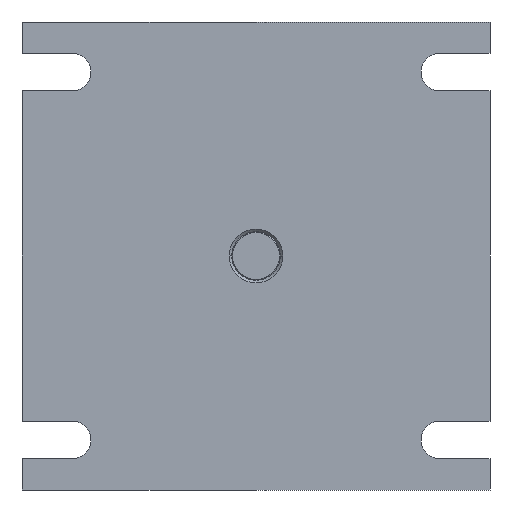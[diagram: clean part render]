
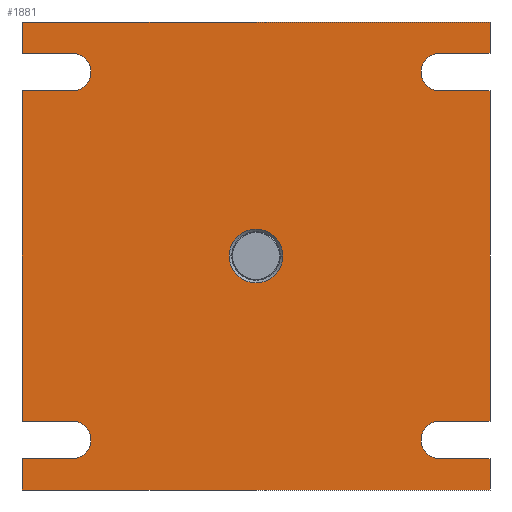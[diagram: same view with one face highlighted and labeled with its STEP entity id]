
A CAD part, front view. The second image highlights one B-rep face of the part: STEP entity #1881.
In plain terms, the highlighted planar face has unit normal (0, -1, 0).
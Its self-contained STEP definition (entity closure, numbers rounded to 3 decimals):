
#100=DIRECTION('',(-1.,0.,0.));
#101=VECTOR('',#100,15.);
#102=CARTESIAN_POINT('',(70.,0.,60.6));
#103=LINE('',#102,#101);
#104=DIRECTION('',(-1.,0.,0.));
#105=VECTOR('',#104,15.);
#106=CARTESIAN_POINT('',(70.,0.,49.4));
#107=LINE('',#106,#105);
#108=DIRECTION('',(0.,0.,-1.));
#109=VECTOR('',#108,98.8);
#110=CARTESIAN_POINT('',(70.,0.,49.4));
#111=LINE('',#110,#109);
#112=DIRECTION('',(-1.,0.,0.));
#113=VECTOR('',#112,15.);
#114=CARTESIAN_POINT('',(70.,0.,-49.4));
#115=LINE('',#114,#113);
#116=DIRECTION('',(-1.,0.,0.));
#117=VECTOR('',#116,15.);
#118=CARTESIAN_POINT('',(70.,0.,-60.6));
#119=LINE('',#118,#117);
#120=DIRECTION('',(0.,0.,-1.));
#121=VECTOR('',#120,9.4);
#122=CARTESIAN_POINT('',(70.,0.,-60.6));
#123=LINE('',#122,#121);
#124=DIRECTION('',(-1.,0.,0.));
#125=VECTOR('',#124,140.);
#126=CARTESIAN_POINT('',(70.,0.,-70.));
#127=LINE('',#126,#125);
#128=DIRECTION('',(0.,0.,1.));
#129=VECTOR('',#128,9.4);
#130=CARTESIAN_POINT('',(-70.,0.,-70.));
#131=LINE('',#130,#129);
#132=DIRECTION('',(1.,0.,0.));
#133=VECTOR('',#132,15.);
#134=CARTESIAN_POINT('',(-70.,0.,-60.6));
#135=LINE('',#134,#133);
#136=DIRECTION('',(1.,0.,0.));
#137=VECTOR('',#136,15.);
#138=CARTESIAN_POINT('',(-70.,0.,-49.4));
#139=LINE('',#138,#137);
#140=DIRECTION('',(0.,0.,1.));
#141=VECTOR('',#140,98.8);
#142=CARTESIAN_POINT('',(-70.,0.,-49.4));
#143=LINE('',#142,#141);
#144=DIRECTION('',(1.,0.,0.));
#145=VECTOR('',#144,15.);
#146=CARTESIAN_POINT('',(-70.,0.,49.4));
#147=LINE('',#146,#145);
#148=DIRECTION('',(1.,0.,0.));
#149=VECTOR('',#148,15.);
#150=CARTESIAN_POINT('',(-70.,0.,60.6));
#151=LINE('',#150,#149);
#152=DIRECTION('',(0.,0.,1.));
#153=VECTOR('',#152,9.4);
#154=CARTESIAN_POINT('',(-70.,0.,60.6));
#155=LINE('',#154,#153);
#156=DIRECTION('',(1.,0.,0.));
#157=VECTOR('',#156,140.);
#158=CARTESIAN_POINT('',(-70.,0.,70.));
#159=LINE('',#158,#157);
#160=DIRECTION('',(0.,0.,-1.));
#161=VECTOR('',#160,9.4);
#162=CARTESIAN_POINT('',(70.,0.,70.));
#163=LINE('',#162,#161);
#164=CARTESIAN_POINT('',(0.,0.,0.));
#165=DIRECTION('',(0.,1.,0.));
#166=DIRECTION('',(1.,0.,0.));
#167=AXIS2_PLACEMENT_3D('',#164,#165,#166);
#169=CARTESIAN_POINT('',(0.,0.,0.));
#170=DIRECTION('',(0.,1.,0.));
#171=DIRECTION('',(-1.,0.,0.));
#172=AXIS2_PLACEMENT_3D('',#169,#170,#171);
#183=CARTESIAN_POINT('',(55.,0.,55.));
#184=DIRECTION('',(0.,1.,0.));
#185=DIRECTION('',(0.,0.,-1.));
#186=AXIS2_PLACEMENT_3D('',#183,#184,#185);
#209=CARTESIAN_POINT('',(55.,0.,-55.));
#210=DIRECTION('',(0.,1.,0.));
#211=DIRECTION('',(0.,0.,-1.));
#212=AXIS2_PLACEMENT_3D('',#209,#210,#211);
#234=CARTESIAN_POINT('',(-55.,0.,-55.));
#235=DIRECTION('',(0.,1.,0.));
#236=DIRECTION('',(0.,0.,1.));
#237=AXIS2_PLACEMENT_3D('',#234,#235,#236);
#260=CARTESIAN_POINT('',(-55.,0.,55.));
#261=DIRECTION('',(0.,1.,0.));
#262=DIRECTION('',(0.,0.,1.));
#263=AXIS2_PLACEMENT_3D('',#260,#261,#262);
#1386=CARTESIAN_POINT('',(-70.,0.,70.));
#1387=CARTESIAN_POINT('',(70.,0.,70.));
#1388=VERTEX_POINT('',#1386);
#1389=VERTEX_POINT('',#1387);
#1390=CARTESIAN_POINT('',(70.,0.,-70.));
#1391=CARTESIAN_POINT('',(-70.,0.,-70.));
#1392=VERTEX_POINT('',#1390);
#1393=VERTEX_POINT('',#1391);
#1402=CARTESIAN_POINT('',(70.,0.,60.6));
#1403=CARTESIAN_POINT('',(55.,0.,60.6));
#1404=VERTEX_POINT('',#1402);
#1405=VERTEX_POINT('',#1403);
#1406=CARTESIAN_POINT('',(70.,0.,49.4));
#1407=CARTESIAN_POINT('',(55.,0.,49.4));
#1408=VERTEX_POINT('',#1406);
#1409=VERTEX_POINT('',#1407);
#1410=CARTESIAN_POINT('',(-70.,0.,49.4));
#1411=CARTESIAN_POINT('',(-55.,0.,49.4));
#1412=VERTEX_POINT('',#1410);
#1413=VERTEX_POINT('',#1411);
#1414=CARTESIAN_POINT('',(-70.,0.,60.6));
#1415=CARTESIAN_POINT('',(-55.,0.,60.6));
#1416=VERTEX_POINT('',#1414);
#1417=VERTEX_POINT('',#1415);
#1418=CARTESIAN_POINT('',(-70.,0.,-60.6));
#1419=CARTESIAN_POINT('',(-55.,0.,-60.6));
#1420=VERTEX_POINT('',#1418);
#1421=VERTEX_POINT('',#1419);
#1422=CARTESIAN_POINT('',(-70.,0.,-49.4));
#1423=CARTESIAN_POINT('',(-55.,0.,-49.4));
#1424=VERTEX_POINT('',#1422);
#1425=VERTEX_POINT('',#1423);
#1426=CARTESIAN_POINT('',(70.,0.,-49.4));
#1427=CARTESIAN_POINT('',(55.,0.,-49.4));
#1428=VERTEX_POINT('',#1426);
#1429=VERTEX_POINT('',#1427);
#1430=CARTESIAN_POINT('',(70.,0.,-60.6));
#1431=CARTESIAN_POINT('',(55.,0.,-60.6));
#1432=VERTEX_POINT('',#1430);
#1433=VERTEX_POINT('',#1431);
#1466=CARTESIAN_POINT('',(8.,0.,0.));
#1467=CARTESIAN_POINT('',(-8.,0.,0.));
#1468=VERTEX_POINT('',#1466);
#1469=VERTEX_POINT('',#1467);
#1829=CARTESIAN_POINT('',(0.,0.,0.));
#1830=DIRECTION('',(0.,1.,0.));
#1831=DIRECTION('',(1.,0.,0.));
#1832=AXIS2_PLACEMENT_3D('',#1829,#1830,#1831);
#1833=PLANE('',#1832);
#1834=ORIENTED_EDGE('',*,*,#1819,.T.);
#1836=ORIENTED_EDGE('',*,*,#1835,.F.);
#1838=ORIENTED_EDGE('',*,*,#1837,.F.);
#1840=ORIENTED_EDGE('',*,*,#1839,.T.);
#1842=ORIENTED_EDGE('',*,*,#1841,.T.);
#1844=ORIENTED_EDGE('',*,*,#1843,.F.);
#1846=ORIENTED_EDGE('',*,*,#1845,.F.);
#1848=ORIENTED_EDGE('',*,*,#1847,.T.);
#1850=ORIENTED_EDGE('',*,*,#1849,.T.);
#1852=ORIENTED_EDGE('',*,*,#1851,.T.);
#1854=ORIENTED_EDGE('',*,*,#1853,.T.);
#1856=ORIENTED_EDGE('',*,*,#1855,.F.);
#1858=ORIENTED_EDGE('',*,*,#1857,.F.);
#1860=ORIENTED_EDGE('',*,*,#1859,.T.);
#1862=ORIENTED_EDGE('',*,*,#1861,.T.);
#1864=ORIENTED_EDGE('',*,*,#1863,.F.);
#1866=ORIENTED_EDGE('',*,*,#1865,.F.);
#1868=ORIENTED_EDGE('',*,*,#1867,.T.);
#1870=ORIENTED_EDGE('',*,*,#1869,.T.);
#1872=ORIENTED_EDGE('',*,*,#1871,.T.);
#1873=EDGE_LOOP('',(#1834,#1836,#1838,#1840,#1842,#1844,#1846,#1848,#1850,#1852,
#1854,#1856,#1858,#1860,#1862,#1864,#1866,#1868,#1870,#1872));
#1874=FACE_OUTER_BOUND('',#1873,.F.);
#1876=ORIENTED_EDGE('',*,*,#1875,.F.);
#1878=ORIENTED_EDGE('',*,*,#1877,.F.);
#1879=EDGE_LOOP('',(#1876,#1878));
#1880=FACE_BOUND('',#1879,.F.);
#1881=ADVANCED_FACE('',(#1874,#1880),#1833,.F.);
#168=CIRCLE('',#167,8.);
#173=CIRCLE('',#172,8.);
#187=CIRCLE('',#186,5.6);
#213=CIRCLE('',#212,5.6);
#238=CIRCLE('',#237,5.6);
#264=CIRCLE('',#263,5.6);
#1819=EDGE_CURVE('',#1404,#1405,#103,.T.);
#1835=EDGE_CURVE('',#1409,#1405,#187,.T.);
#1837=EDGE_CURVE('',#1408,#1409,#107,.T.);
#1839=EDGE_CURVE('',#1408,#1428,#111,.T.);
#1841=EDGE_CURVE('',#1428,#1429,#115,.T.);
#1843=EDGE_CURVE('',#1433,#1429,#213,.T.);
#1845=EDGE_CURVE('',#1432,#1433,#119,.T.);
#1847=EDGE_CURVE('',#1432,#1392,#123,.T.);
#1849=EDGE_CURVE('',#1392,#1393,#127,.T.);
#1851=EDGE_CURVE('',#1393,#1420,#131,.T.);
#1853=EDGE_CURVE('',#1420,#1421,#135,.T.);
#1855=EDGE_CURVE('',#1425,#1421,#238,.T.);
#1857=EDGE_CURVE('',#1424,#1425,#139,.T.);
#1859=EDGE_CURVE('',#1424,#1412,#143,.T.);
#1861=EDGE_CURVE('',#1412,#1413,#147,.T.);
#1863=EDGE_CURVE('',#1417,#1413,#264,.T.);
#1865=EDGE_CURVE('',#1416,#1417,#151,.T.);
#1867=EDGE_CURVE('',#1416,#1388,#155,.T.);
#1869=EDGE_CURVE('',#1388,#1389,#159,.T.);
#1871=EDGE_CURVE('',#1389,#1404,#163,.T.);
#1875=EDGE_CURVE('',#1468,#1469,#168,.T.);
#1877=EDGE_CURVE('',#1469,#1468,#173,.T.);
